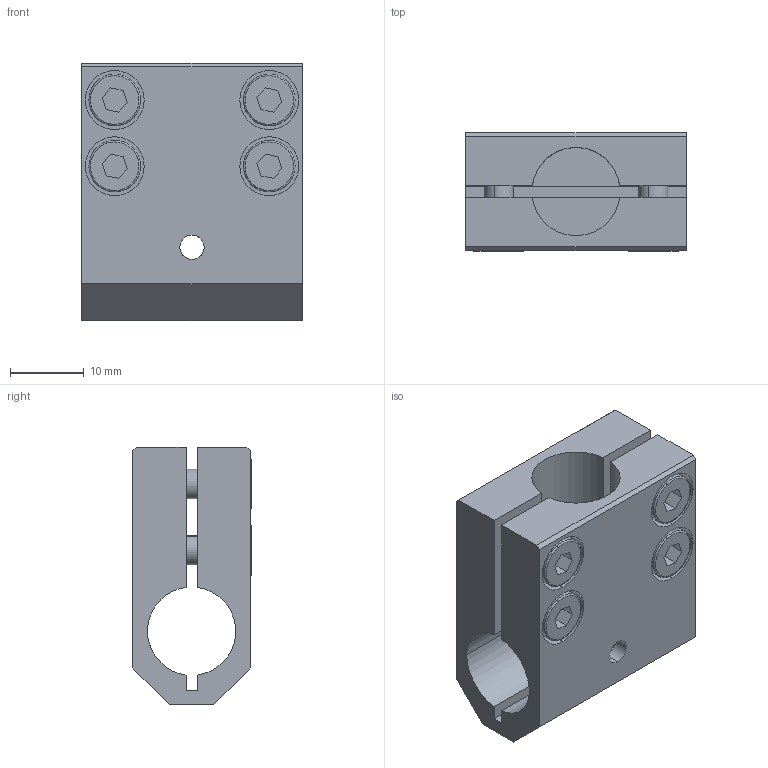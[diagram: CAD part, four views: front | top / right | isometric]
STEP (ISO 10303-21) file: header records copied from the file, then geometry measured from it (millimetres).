
FILE_DESCRIPTION (( 'STEP AP214' ), '1' );
FILE_NAME ('SMBF1-1212.STEP', '2019-11-06T06:32:11', ( '微软用户' ), ( '微软中国' ), 'SwSTEP 2.0', 'SolidWorks 2016', '' );
FILE_SCHEMA (( 'AUTOMOTIVE_DESIGN' ));
Length unit declared in the file: millimetre
Products named in the file (1): SMBF1-1212
Bounding box: 30 x 16.1 x 35 mm (x, y, z)
Volume: 9891.6 mm3; surface area: 8400.2 mm2
Topology: 9 solids, 9 shells, 911 faces, 2630 edges, 1740 vertices
Faces by surface type: plane 830, cylinder 65, cone 8, bspline 8
Entity records: 40795 total; most frequent: CARTESIAN_POINT 5880, DIRECTION 5294, ORIENTED_EDGE 5260, EDGE_CURVE 2630, AXIS2_PLACEMENT_3D 1782, VERTEX_POINT 1740, LINE 1730, VECTOR 1730
